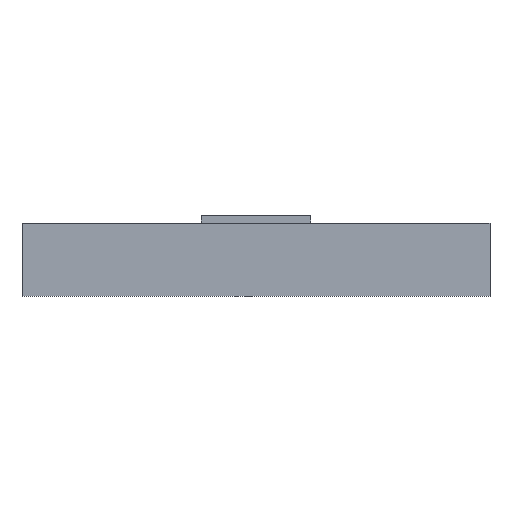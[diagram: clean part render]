
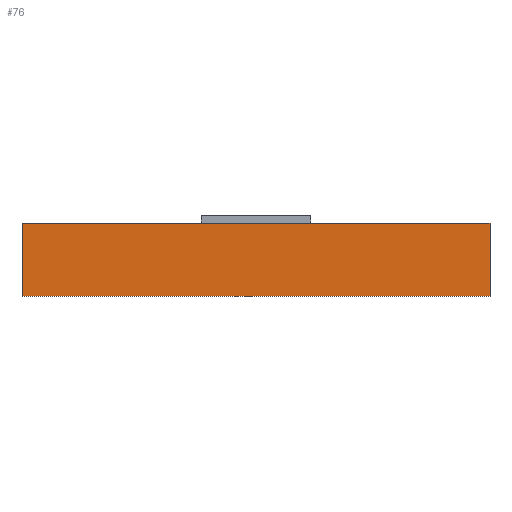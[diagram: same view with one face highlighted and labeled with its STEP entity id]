
A CAD part, left-side view. The second image highlights one B-rep face of the part: STEP entity #76.
In plain terms, the highlighted planar face has unit normal (-1, 0, 0).
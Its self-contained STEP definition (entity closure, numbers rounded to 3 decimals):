
#76=ADVANCED_FACE('',(#234),#236,.T.);
#234=FACE_BOUND('',#235,.T.);
#235=EDGE_LOOP('',(#364,#365,#366,#367,#368,#369));
#236=PLANE('',#237);
#237=AXIS2_PLACEMENT_3D('',#238,#239,#240);
#238=CARTESIAN_POINT('',(-3.2,3.2,0.));
#239=DIRECTION('',(-1.,0.,0.));
#240=DIRECTION('',(0.,-1.,0.));
#364=ORIENTED_EDGE('',*,*,#450,.F.);
#365=ORIENTED_EDGE('',*,*,#439,.F.);
#366=ORIENTED_EDGE('',*,*,#451,.F.);
#367=ORIENTED_EDGE('',*,*,#452,.T.);
#368=ORIENTED_EDGE('',*,*,#453,.T.);
#369=ORIENTED_EDGE('',*,*,#443,.F.);
#439=EDGE_CURVE('',#487,#489,#490,.T.);
#443=EDGE_CURVE('',#495,#497,#498,.T.);
#450=EDGE_CURVE('',#489,#495,#508,.F.);
#451=EDGE_CURVE('',#509,#487,#510,.T.);
#452=EDGE_CURVE('',#509,#511,#512,.T.);
#453=EDGE_CURVE('',#511,#497,#513,.T.);
#487=VERTEX_POINT('',#567);
#489=VERTEX_POINT('',#571);
#490=LINE('',#572,#573);
#495=VERTEX_POINT('',#583);
#497=VERTEX_POINT('',#587);
#498=LINE('',#588,#589);
#508=LINE('',#612,#613);
#509=VERTEX_POINT('',#615);
#510=LINE('',#616,#617);
#511=VERTEX_POINT('',#619);
#512=LINE('',#620,#621);
#513=LINE('',#623,#624);
#567=CARTESIAN_POINT('',(-3.2,3.2,1.));
#571=CARTESIAN_POINT('',(-3.2,0.75,1.));
#572=CARTESIAN_POINT('',(-3.2,3.2,1.));
#573=VECTOR('',#574,1.);
#574=DIRECTION('',(0.,-1.,0.));
#583=CARTESIAN_POINT('',(-3.2,-0.75,1.));
#587=CARTESIAN_POINT('',(-3.2,-3.2,1.));
#588=CARTESIAN_POINT('',(-3.2,-0.75,1.));
#589=VECTOR('',#590,1.);
#590=DIRECTION('',(0.,-1.,0.));
#612=CARTESIAN_POINT('',(-3.2,-0.75,1.));
#613=VECTOR('',#614,1.);
#614=DIRECTION('',(0.,1.,0.));
#615=CARTESIAN_POINT('',(-3.2,3.2,0.));
#616=CARTESIAN_POINT('',(-3.2,3.2,0.));
#617=VECTOR('',#618,1.);
#618=DIRECTION('',(0.,0.,1.));
#619=CARTESIAN_POINT('',(-3.2,-3.2,0.));
#620=CARTESIAN_POINT('',(-3.2,3.2,0.));
#621=VECTOR('',#622,1.);
#622=DIRECTION('',(0.,-1.,0.));
#623=CARTESIAN_POINT('',(-3.2,-3.2,0.));
#624=VECTOR('',#625,1.);
#625=DIRECTION('',(0.,0.,1.));
